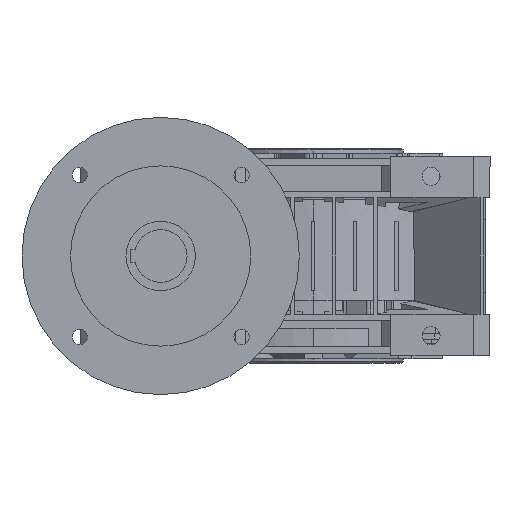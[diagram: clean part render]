
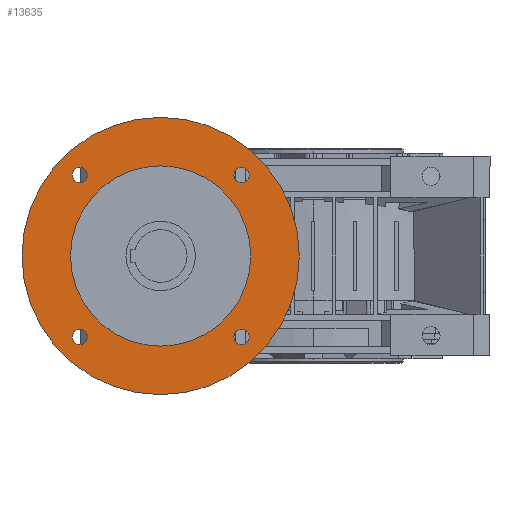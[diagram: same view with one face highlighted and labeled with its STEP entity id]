
A CAD part, left-side view. The second image highlights one B-rep face of the part: STEP entity #13635.
In plain terms, the highlighted planar face has unit normal (-1, 0, 0) as drawn and (1, 0, 0) by its records, which use the part's own axes.
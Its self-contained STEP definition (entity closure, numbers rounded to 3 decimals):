
#150 = CARTESIAN_POINT ( 'NONE',  ( 20., 100., 0. ) ) ;
#245 = EDGE_LOOP ( 'NONE', ( #43446, #35756 ) ) ;
#353 = CARTESIAN_POINT ( 'NONE',  ( 20., 58.336, -58.336 ) ) ;
#612 = VERTEX_POINT ( 'NONE', #21034 ) ;
#690 = DIRECTION ( 'NONE',  ( 0., 0., 1. ) ) ;
#1389 = CIRCLE ( 'NONE', #18938, 5.5 ) ;
#1717 = FACE_BOUND ( 'NONE', #245, .T. ) ;
#1719 = VERTEX_POINT ( 'NONE', #41144 ) ;
#2974 = CARTESIAN_POINT ( 'NONE',  ( 20., 58.336, 58.336 ) ) ;
#3313 = EDGE_LOOP ( 'NONE', ( #34365, #42918 ) ) ;
#3989 = CARTESIAN_POINT ( 'NONE',  ( 20., -58.336, 58.336 ) ) ;
#4311 = VERTEX_POINT ( 'NONE', #44459 ) ;
#4656 = CARTESIAN_POINT ( 'NONE',  ( 20., -58.336, -58.336 ) ) ;
#4693 = CIRCLE ( 'NONE', #36018, 5.5 ) ;
#5000 = CARTESIAN_POINT ( 'NONE',  ( 20., -58.336, -58.336 ) ) ;
#5251 = EDGE_CURVE ( 'NONE', #23993, #16358, #35858, .T. ) ;
#5511 = VERTEX_POINT ( 'NONE', #6816 ) ;
#5727 = AXIS2_PLACEMENT_3D ( 'NONE', #37675, #23484, #30335 ) ;
#5756 = EDGE_CURVE ( 'NONE', #40405, #20954, #22412, .T. ) ;
#5858 = EDGE_CURVE ( 'NONE', #15059, #7606, #42534, .T. ) ;
#6116 = DIRECTION ( 'NONE',  ( 1., 0., 0. ) ) ;
#6369 = ORIENTED_EDGE ( 'NONE', *, *, #22650, .F. ) ;
#6816 = CARTESIAN_POINT ( 'NONE',  ( 20., 58.336, 52.836 ) ) ;
#6859 = AXIS2_PLACEMENT_3D ( 'NONE', #4656, #37109, #18580 ) ;
#7047 = EDGE_LOOP ( 'NONE', ( #41125, #44418 ) ) ;
#7606 = VERTEX_POINT ( 'NONE', #42738 ) ;
#8541 = DIRECTION ( 'NONE',  ( 0., 0., 1. ) ) ;
#8595 = DIRECTION ( 'NONE',  ( 1., 0., 0. ) ) ;
#8784 = ORIENTED_EDGE ( 'NONE', *, *, #13988, .F. ) ;
#9047 = VERTEX_POINT ( 'NONE', #32038 ) ;
#9728 = DIRECTION ( 'NONE',  ( 1., 0., 0. ) ) ;
#10546 = DIRECTION ( 'NONE',  ( 1., 0., 0. ) ) ;
#10748 = CARTESIAN_POINT ( 'NONE',  ( 20., -58.336, 52.836 ) ) ;
#10918 = VERTEX_POINT ( 'NONE', #17369 ) ;
#11305 = DIRECTION ( 'NONE',  ( 1., 0., 0. ) ) ;
#11337 = CARTESIAN_POINT ( 'NONE',  ( 20., 0., -100. ) ) ;
#13276 = CARTESIAN_POINT ( 'NONE',  ( 20., 58.336, 58.336 ) ) ;
#13470 = DIRECTION ( 'NONE',  ( 0., 1., 0. ) ) ;
#13635 = ADVANCED_FACE ( 'NONE', ( #39745, #22429, #34139, #21317, #37491, #1717 ), #25344, .F. ) ;
#13638 = CARTESIAN_POINT ( 'NONE',  ( 20., -58.336, 63.836 ) ) ;
#13988 = EDGE_CURVE ( 'NONE', #5511, #612, #15737, .T. ) ;
#14983 = DIRECTION ( 'NONE',  ( -1., 0., 0. ) ) ;
#15059 = VERTEX_POINT ( 'NONE', #45953 ) ;
#15329 = AXIS2_PLACEMENT_3D ( 'NONE', #26178, #37232, #8541 ) ;
#15737 = CIRCLE ( 'NONE', #34632, 5.5 ) ;
#15982 = EDGE_CURVE ( 'NONE', #16358, #23993, #37812, .T. ) ;
#16358 = VERTEX_POINT ( 'NONE', #22032 ) ;
#16888 = EDGE_CURVE ( 'NONE', #20954, #40405, #1389, .T. ) ;
#17369 = CARTESIAN_POINT ( 'NONE',  ( 20., 58.336, -63.836 ) ) ;
#17625 = AXIS2_PLACEMENT_3D ( 'NONE', #150, #18325, #28632 ) ;
#18325 = DIRECTION ( 'NONE',  ( -1., 0., 0. ) ) ;
#18580 = DIRECTION ( 'NONE',  ( 0., -1., 0. ) ) ;
#18864 = DIRECTION ( 'NONE',  ( 1., 0., 0. ) ) ;
#18873 = ORIENTED_EDGE ( 'NONE', *, *, #43237, .F. ) ;
#18938 = AXIS2_PLACEMENT_3D ( 'NONE', #3989, #18864, #43825 ) ;
#19448 = ORIENTED_EDGE ( 'NONE', *, *, #5756, .F. ) ;
#19489 = AXIS2_PLACEMENT_3D ( 'NONE', #26310, #32848, #33309 ) ;
#20749 = DIRECTION ( 'NONE',  ( 0., 0., 1. ) ) ;
#20954 = VERTEX_POINT ( 'NONE', #10748 ) ;
#21034 = CARTESIAN_POINT ( 'NONE',  ( 20., 58.336, 63.836 ) ) ;
#21317 = FACE_BOUND ( 'NONE', #21622, .T. ) ;
#21492 = DIRECTION ( 'NONE',  ( 0., 0., -1. ) ) ;
#21505 = DIRECTION ( 'NONE',  ( 0., 0., -1. ) ) ;
#21622 = EDGE_LOOP ( 'NONE', ( #6369, #18873 ) ) ;
#22032 = CARTESIAN_POINT ( 'NONE',  ( 20., 0., 100. ) ) ;
#22412 = CIRCLE ( 'NONE', #19489, 5.5 ) ;
#22429 = FACE_BOUND ( 'NONE', #23699, .T. ) ;
#22572 = AXIS2_PLACEMENT_3D ( 'NONE', #2974, #9728, #13470 ) ;
#22650 = EDGE_CURVE ( 'NONE', #10918, #9047, #24181, .T. ) ;
#23012 = AXIS2_PLACEMENT_3D ( 'NONE', #33828, #14983, #690 ) ;
#23484 = DIRECTION ( 'NONE',  ( -1., 0., 0. ) ) ;
#23675 = CIRCLE ( 'NONE', #6859, 5.5 ) ;
#23699 = EDGE_LOOP ( 'NONE', ( #36468, #19448 ) ) ;
#23993 = VERTEX_POINT ( 'NONE', #11337 ) ;
#24181 = CIRCLE ( 'NONE', #24204, 5.5 ) ;
#24204 = AXIS2_PLACEMENT_3D ( 'NONE', #39253, #10546, #21492 ) ;
#24239 = AXIS2_PLACEMENT_3D ( 'NONE', #27911, #31016, #20749 ) ;
#24504 = AXIS2_PLACEMENT_3D ( 'NONE', #5000, #8595, #26713 ) ;
#25344 = PLANE ( 'NONE',  #17625 ) ;
#26178 = CARTESIAN_POINT ( 'NONE',  ( 20., 0., 0. ) ) ;
#26310 = CARTESIAN_POINT ( 'NONE',  ( 20., -58.336, 58.336 ) ) ;
#26713 = DIRECTION ( 'NONE',  ( 0., -1., 0. ) ) ;
#27911 = CARTESIAN_POINT ( 'NONE',  ( 20., 0., 0. ) ) ;
#28220 = EDGE_CURVE ( 'NONE', #1719, #4311, #41911, .T. ) ;
#28632 = DIRECTION ( 'NONE',  ( 0., 0., 1. ) ) ;
#30335 = DIRECTION ( 'NONE',  ( 0., 0., 1. ) ) ;
#31016 = DIRECTION ( 'NONE',  ( -1., 0., 0. ) ) ;
#32038 = CARTESIAN_POINT ( 'NONE',  ( 20., 58.336, -52.836 ) ) ;
#32848 = DIRECTION ( 'NONE',  ( 1., 0., 0. ) ) ;
#32874 = EDGE_CURVE ( 'NONE', #612, #5511, #41230, .T. ) ;
#33309 = DIRECTION ( 'NONE',  ( 0., 0., 1. ) ) ;
#33828 = CARTESIAN_POINT ( 'NONE',  ( 20., 0., 0. ) ) ;
#34139 = FACE_BOUND ( 'NONE', #3313, .T. ) ;
#34365 = ORIENTED_EDGE ( 'NONE', *, *, #28220, .F. ) ;
#34632 = AXIS2_PLACEMENT_3D ( 'NONE', #13276, #6116, #41846 ) ;
#35346 = CIRCLE ( 'NONE', #24239, 65. ) ;
#35756 = ORIENTED_EDGE ( 'NONE', *, *, #5858, .T. ) ;
#35858 = CIRCLE ( 'NONE', #23012, 100. ) ;
#36018 = AXIS2_PLACEMENT_3D ( 'NONE', #353, #11305, #21505 ) ;
#36418 = EDGE_CURVE ( 'NONE', #4311, #1719, #23675, .T. ) ;
#36465 = EDGE_LOOP ( 'NONE', ( #8784, #40243 ) ) ;
#36468 = ORIENTED_EDGE ( 'NONE', *, *, #16888, .F. ) ;
#36665 = EDGE_CURVE ( 'NONE', #7606, #15059, #35346, .T. ) ;
#37109 = DIRECTION ( 'NONE',  ( 1., 0., 0. ) ) ;
#37232 = DIRECTION ( 'NONE',  ( -1., 0., 0. ) ) ;
#37491 = FACE_OUTER_BOUND ( 'NONE', #7047, .T. ) ;
#37675 = CARTESIAN_POINT ( 'NONE',  ( 20., 0., 0. ) ) ;
#37812 = CIRCLE ( 'NONE', #15329, 100. ) ;
#39253 = CARTESIAN_POINT ( 'NONE',  ( 20., 58.336, -58.336 ) ) ;
#39745 = FACE_BOUND ( 'NONE', #36465, .T. ) ;
#40243 = ORIENTED_EDGE ( 'NONE', *, *, #32874, .F. ) ;
#40405 = VERTEX_POINT ( 'NONE', #13638 ) ;
#41125 = ORIENTED_EDGE ( 'NONE', *, *, #15982, .F. ) ;
#41144 = CARTESIAN_POINT ( 'NONE',  ( 20., -58.336, -63.836 ) ) ;
#41230 = CIRCLE ( 'NONE', #22572, 5.5 ) ;
#41846 = DIRECTION ( 'NONE',  ( 0., 1., 0. ) ) ;
#41911 = CIRCLE ( 'NONE', #24504, 5.5 ) ;
#42534 = CIRCLE ( 'NONE', #5727, 65. ) ;
#42738 = CARTESIAN_POINT ( 'NONE',  ( 20., 0., 65. ) ) ;
#42918 = ORIENTED_EDGE ( 'NONE', *, *, #36418, .F. ) ;
#43237 = EDGE_CURVE ( 'NONE', #9047, #10918, #4693, .T. ) ;
#43446 = ORIENTED_EDGE ( 'NONE', *, *, #36665, .T. ) ;
#43825 = DIRECTION ( 'NONE',  ( 0., 0., 1. ) ) ;
#44418 = ORIENTED_EDGE ( 'NONE', *, *, #5251, .F. ) ;
#44459 = CARTESIAN_POINT ( 'NONE',  ( 20., -58.336, -52.836 ) ) ;
#45953 = CARTESIAN_POINT ( 'NONE',  ( 20., 0., -65. ) ) ;
